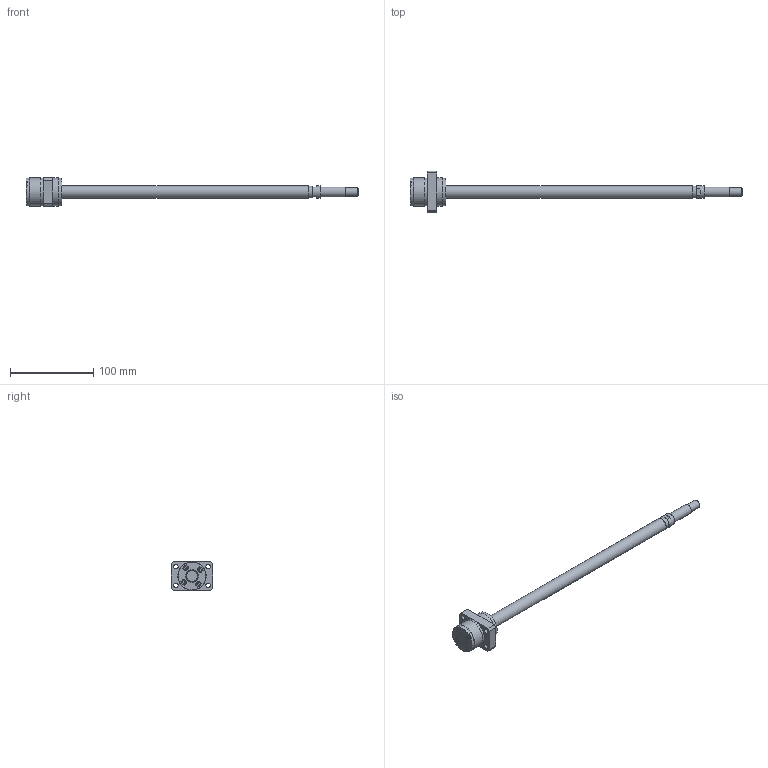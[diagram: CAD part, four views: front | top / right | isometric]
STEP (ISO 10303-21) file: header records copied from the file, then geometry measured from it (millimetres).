
FILE_DESCRIPTION( ( 'STEP AP203' ), '1' );
FILE_NAME( 'e:/temp/worker_91/temp/exporttempdir_4428_1564_omKVn/format_0/SG1510-340R400C5A1X(0).stp', '2021-10-19T03:09:21', ( 'License CC BY-ND 4.0' ), ( 'CADENAS' ), ' ', 'PARTsolutions', ' ' );
FILE_SCHEMA( ( 'CONFIG_CONTROL_DESIGN' ) );
Length unit declared in the file: millimetre
Products named in the file (3): SG1510-340R400C5A1X(0); _SG1510-340R400C5A_shaft; _SG1510 C5_nut
Assembly tree (2 placements, depth 2):
  SG1510-340R400C5A1X(0)
    _SG1510-340R400C5A_shaft
    _SG1510 C5_nut
Bounding box: 400 x 50 x 34 mm (x, y, z)
Volume: 104389.1 mm3; surface area: 30138.2 mm2
Topology: 2 solids, 2 shells, 114 faces, 257 edges, 166 vertices
Faces by surface type: plane 73, cylinder 33, cone 7, torus 1
Full cylindrical faces by diameter (mm): 2 x1, 4.917 x1, 5.5 x8, 9.5 x4, 10 x1, 12 x1, 14.387 x1, 15 x3, 33.5 x3, 34 x2
Entity records: 3150 total; most frequent: DIRECTION 540, CARTESIAN_POINT 534, ORIENTED_EDGE 442, EDGE_CURVE 221, AXIS2_PLACEMENT_3D 203, EDGE_LOOP 178, VERTEX_POINT 163, FACE_OUTER_BOUND 140
